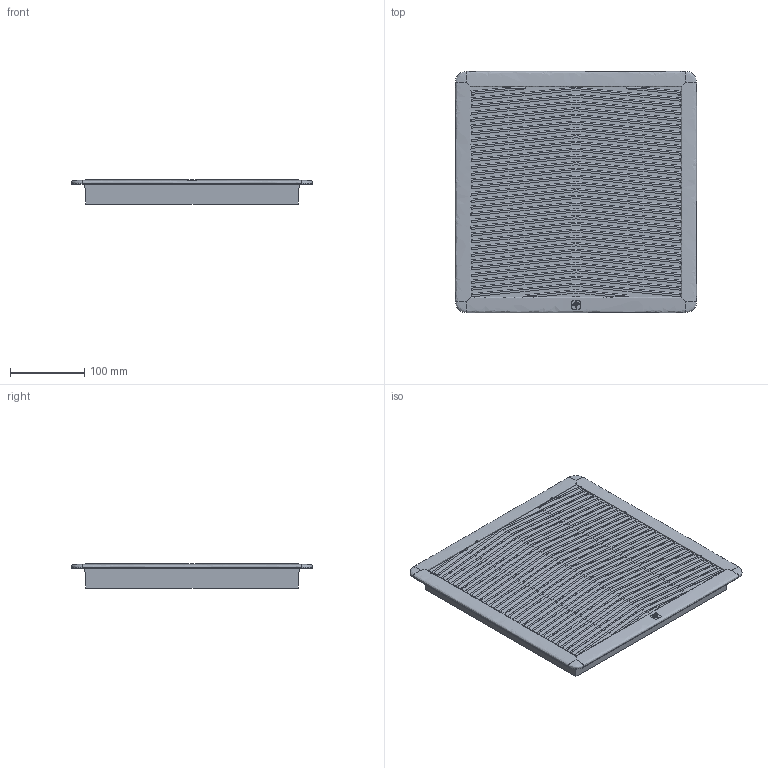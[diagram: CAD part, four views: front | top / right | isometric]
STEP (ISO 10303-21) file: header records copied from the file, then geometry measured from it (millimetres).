
FILE_DESCRIPTION (( 'STEP AP214' ), '1' );
FILE_NAME ('GF20KyG.STEP', '2023-10-19T09:32:53', ( '' ), ( '' ), 'SwSTEP 2.0', 'SolidWorks 2022', '' );
FILE_SCHEMA (( 'AUTOMOTIVE_DESIGN' ));
Length unit declared in the file: millimetre
Products named in the file (3): GF20KyG; GF20B-7035_semplificato; GF20C-7035_semplificata
Assembly tree (2 placements, depth 2):
  GF20KyG
    GF20B-7035_semplificato
    GF20C-7035_semplificata
Bounding box: 325 x 325 x 32.54 mm (x, y, z)
Volume: 2673169.3 mm3; surface area: 340522.9 mm2
Topology: 35 solids, 35 shells, 867 faces, 2159 edges, 1376 vertices
Faces by surface type: plane 761, bspline 81, cylinder 25
Entity records: 31985 total; most frequent: CARTESIAN_POINT 11616, ORIENTED_EDGE 4310, DIRECTION 3486, EDGE_CURVE 2155, LINE 1840, VECTOR 1840, VERTEX_POINT 1376, EDGE_LOOP 885
